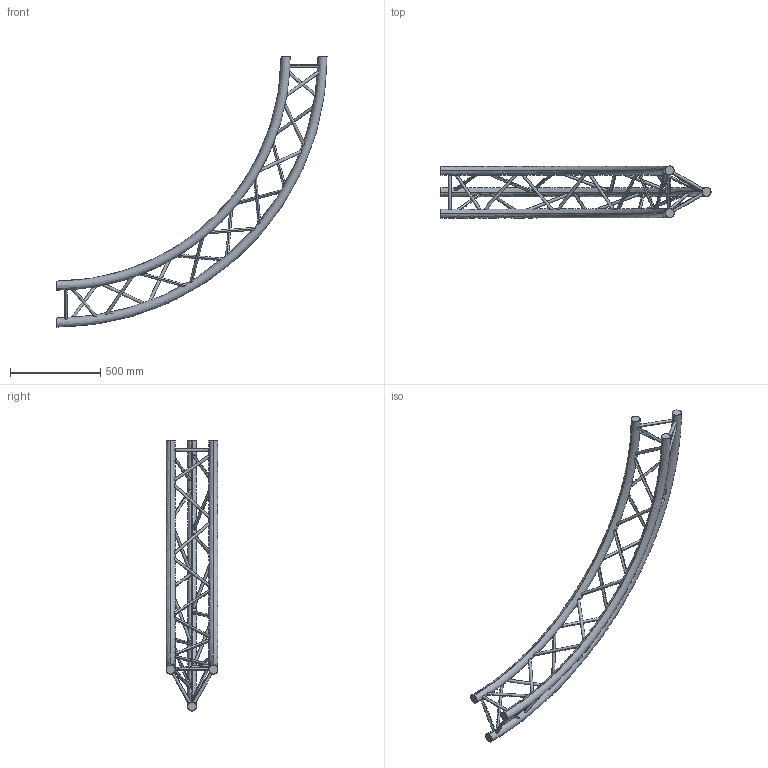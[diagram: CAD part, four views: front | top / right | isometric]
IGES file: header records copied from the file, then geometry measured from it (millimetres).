
Start section: SolidWorks IGES file using analytic representation for surfaces
Global section: file name: K:\BIBLIO\asd_biblio\SX290\Cercles\SXC29PE\SXC29300PE\SXC29300PE.IGS; native system: SolidWorks 2009; preprocessor: SolidWorks 2009; author: des3; date: 091021.113516; units: millimetre
Bounding box: 1500 x 287 x 1500 mm (x, y, z)
Surface area: 1390043.6 mm2 (no closed solid volume)
Topology: 0 solids, 0 shells, 78 faces, 5361 edges, 5361 vertices
Faces by surface type: revolution 66, bspline 12
